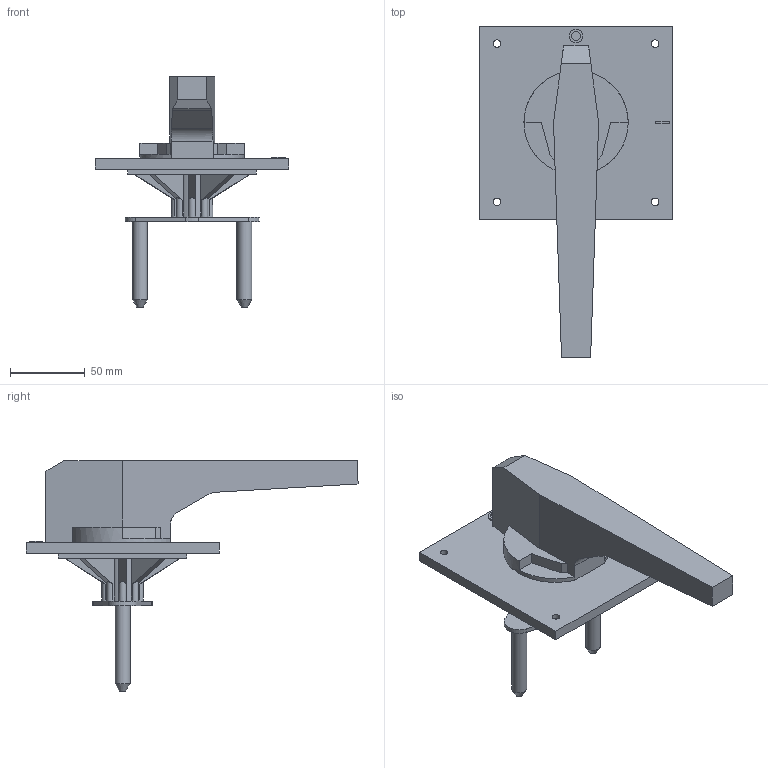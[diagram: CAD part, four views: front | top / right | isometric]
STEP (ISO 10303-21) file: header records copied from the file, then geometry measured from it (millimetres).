
FILE_DESCRIPTION (( 'STEP AP214' ), '1' );
FILE_NAME ('Ðóêîÿòêà ÐÏ.STEP', '2023-01-30T13:14:44', ( '' ), ( '' ), 'SwSTEP 2.0', 'SolidWorks 2018', '' );
FILE_SCHEMA (( 'AUTOMOTIVE_DESIGN' ));
Length unit declared in the file: millimetre
Products named in the file (1): Ðóêîÿòêà ÐÏ
Bounding box: 129.5 x 222.5 x 154.35 mm (x, y, z)
Volume: 323775.5 mm3; surface area: 83092.3 mm2
Topology: 1 solids, 1 shells, 126 faces, 330 edges, 216 vertices
Faces by surface type: plane 92, cylinder 32, cone 2
Full cylindrical faces by diameter (mm): 5 x4, 6 x1, 9 x1, 10 x2
Entity records: 3834 total; most frequent: CARTESIAN_POINT 699, ORIENTED_EDGE 640, DIRECTION 618, EDGE_CURVE 320, VECTOR 252, LINE 252, VERTEX_POINT 216, AXIS2_PLACEMENT_3D 183
